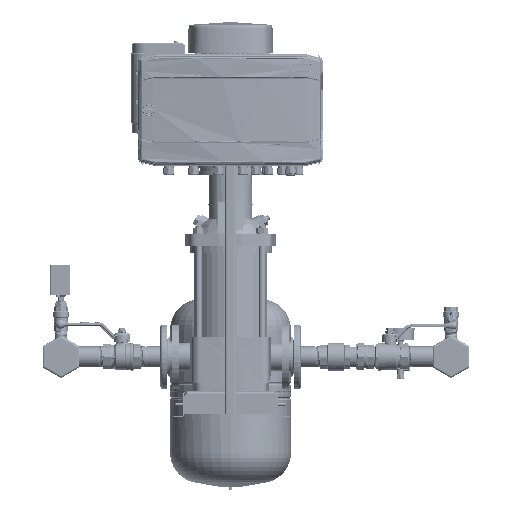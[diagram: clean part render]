
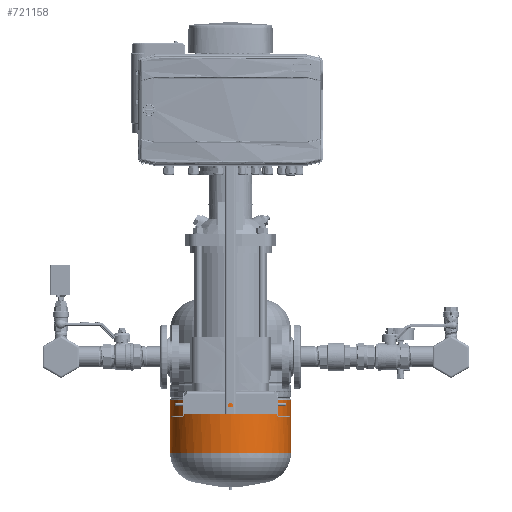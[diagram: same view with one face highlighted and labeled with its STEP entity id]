
A CAD part, left-side view. The second image highlights one B-rep face of the part: STEP entity #721158.
In plain terms, the highlighted cylindrical face has radius 140 mm (diameter 280 mm), a partial arc.
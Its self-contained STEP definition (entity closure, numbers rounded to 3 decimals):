
#714267=CARTESIAN_POINT('Vertex',(-140.,0.,-20.533)) ;
#714270=CARTESIAN_POINT('Axis2P3D Location',(0.,0.,-20.533)) ;
#714274=CARTESIAN_POINT('Vertex',(0.,-140.,-20.533)) ;
#714329=CARTESIAN_POINT('Vertex',(0.,140.,-20.533)) ;
#714332=CARTESIAN_POINT('Axis2P3D Location',(0.,0.,-20.533)) ;
#721073=CARTESIAN_POINT('Axis2P3D Location',(0.,0.,-85.867)) ;
#721078=CARTESIAN_POINT('Line Origine',(0.,140.,-85.867)) ;
#721082=CARTESIAN_POINT('Vertex',(0.,140.,-142.492)) ;
#721085=CARTESIAN_POINT('Line Origine',(0.,-140.,-85.867)) ;
#721089=CARTESIAN_POINT('Vertex',(0.,-140.,-142.492)) ;
#721127=CARTESIAN_POINT('Control Point',(-140.,0.,-142.492)) ;
#721128=CARTESIAN_POINT('Control Point',(-140.,21.991,-142.492)) ;
#721129=CARTESIAN_POINT('Control Point',(-135.682,43.982,-142.492)) ;
#721130=CARTESIAN_POINT('Control Point',(-127.042,64.842,-142.492)) ;
#721131=CARTESIAN_POINT('Control Point',(-102.048,102.048,-142.492)) ;
#721132=CARTESIAN_POINT('Control Point',(-64.842,127.042,-142.492)) ;
#721133=CARTESIAN_POINT('Control Point',(-43.982,135.682,-142.492)) ;
#721134=CARTESIAN_POINT('Control Point',(-21.991,140.,-142.492)) ;
#721135=CARTESIAN_POINT('Control Point',(0.,140.,-142.492)) ;
#721136=CARTESIAN_POINT('Vertex',(-140.,0.,-142.492)) ;
#721140=CARTESIAN_POINT('Control Point',(0.,-140.,-142.492)) ;
#721141=CARTESIAN_POINT('Control Point',(-21.991,-140.,-142.492)) ;
#721142=CARTESIAN_POINT('Control Point',(-43.982,-135.682,-142.492)) ;
#721143=CARTESIAN_POINT('Control Point',(-64.842,-127.042,-142.492)) ;
#721144=CARTESIAN_POINT('Control Point',(-102.048,-102.048,-142.492)) ;
#721145=CARTESIAN_POINT('Control Point',(-127.042,-64.842,-142.492)) ;
#721146=CARTESIAN_POINT('Control Point',(-135.682,-43.982,-142.492)) ;
#721147=CARTESIAN_POINT('Control Point',(-140.,-21.991,-142.492)) ;
#721148=CARTESIAN_POINT('Control Point',(-140.,0.,-142.492)) ;
#721080=VECTOR('Line Direction',#721079,1.) ;
#721087=VECTOR('Line Direction',#721086,1.) ;
#714271=DIRECTION('Axis2P3D Direction',(0.,0.,-1.)) ;
#714333=DIRECTION('Axis2P3D Direction',(0.,0.,-1.)) ;
#721074=DIRECTION('Axis2P3D Direction',(0.,0.,-1.)) ;
#721075=DIRECTION('Axis2P3D XDirection',(0.,-1.,0.)) ;
#721079=DIRECTION('Vector Direction',(0.,0.,-1.)) ;
#721086=DIRECTION('Vector Direction',(0.,0.,-1.)) ;
#714272=AXIS2_PLACEMENT_3D('Circle Axis2P3D',#714270,#714271,$) ;
#714334=AXIS2_PLACEMENT_3D('Circle Axis2P3D',#714332,#714333,$) ;
#721076=AXIS2_PLACEMENT_3D('Cylinder Axis2P3D',#721073,#721074,#721075) ;
#721081=LINE('Line',#721078,#721080) ;
#721088=LINE('Line',#721085,#721087) ;
#714273=CIRCLE('generated circle',#714272,140.) ;
#714335=CIRCLE('generated circle',#714334,140.) ;
#721077=CYLINDRICAL_SURFACE('generated cylinder',#721076,140.) ;
#714276=EDGE_CURVE('',#714268,#714275,#714273,.F.) ;
#714336=EDGE_CURVE('',#714330,#714268,#714335,.F.) ;
#721084=EDGE_CURVE('',#714330,#721083,#721081,.T.) ;
#721091=EDGE_CURVE('',#721090,#714275,#721088,.F.) ;
#721138=EDGE_CURVE('',#721137,#721083,#721126,.T.) ;
#721149=EDGE_CURVE('',#721090,#721137,#721139,.T.) ;
#721151=ORIENTED_EDGE('',*,*,#721091,.T.) ;
#721152=ORIENTED_EDGE('',*,*,#714276,.F.) ;
#721153=ORIENTED_EDGE('',*,*,#714336,.F.) ;
#721154=ORIENTED_EDGE('',*,*,#721084,.T.) ;
#721155=ORIENTED_EDGE('',*,*,#721138,.F.) ;
#721156=ORIENTED_EDGE('',*,*,#721149,.F.) ;
#721150=EDGE_LOOP('',(#721151,#721152,#721153,#721154,#721155,#721156)) ;
#714268=VERTEX_POINT('',#714267) ;
#714275=VERTEX_POINT('',#714274) ;
#714330=VERTEX_POINT('',#714329) ;
#721083=VERTEX_POINT('',#721082) ;
#721090=VERTEX_POINT('',#721089) ;
#721137=VERTEX_POINT('',#721136) ;
#721158=ADVANCED_FACE('MANIFOLD_SOLID_BREP #40',(#721157),#721077,.T.) ;
#721126=B_SPLINE_CURVE_WITH_KNOTS('',5,(#721127,#721128,#721129,#721130,#721131,#721132,#721133,#721134,#721135),.UNSPECIFIED.,.F.,.U.,(6,3,6),(0.,109.956,219.911),.UNSPECIFIED.) ;
#721139=B_SPLINE_CURVE_WITH_KNOTS('',5,(#721140,#721141,#721142,#721143,#721144,#721145,#721146,#721147,#721148),.UNSPECIFIED.,.F.,.U.,(6,3,6),(-219.911,-109.956,0.),.UNSPECIFIED.) ;
#721157=FACE_OUTER_BOUND('',#721150,.T.) ;
